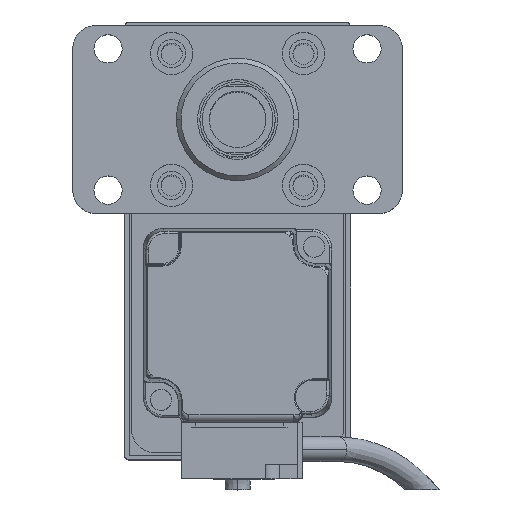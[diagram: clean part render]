
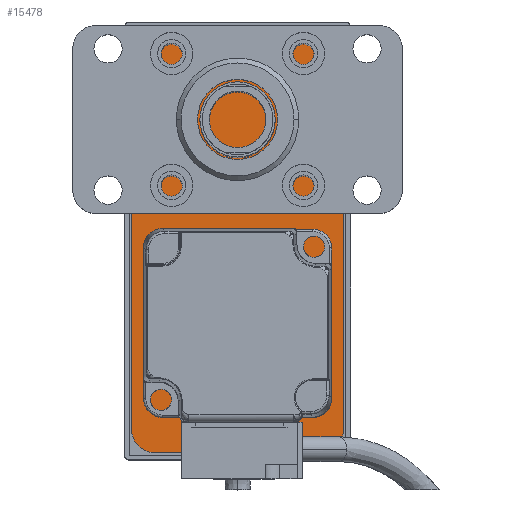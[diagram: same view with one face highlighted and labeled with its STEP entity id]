
A CAD part, top view. The second image highlights one B-rep face of the part: STEP entity #15478.
In plain terms, the highlighted planar face has unit normal (0, 0, 1).
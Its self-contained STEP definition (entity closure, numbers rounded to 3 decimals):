
#264 = EDGE_CURVE ( 'NONE', #1710, #22719, #13748, .T. ) ;
#1078 = ORIENTED_EDGE ( 'NONE', *, *, #14611, .T. ) ;
#1506 = CARTESIAN_POINT ( 'NONE',  ( -22.5, 40., 10. ) ) ;
#1710 = VERTEX_POINT ( 'NONE', #14300 ) ;
#1847 = FACE_OUTER_BOUND ( 'NONE', #9409, .T. ) ;
#2166 = AXIS2_PLACEMENT_3D ( 'NONE', #3795, #13316, #17137 ) ;
#2168 = ORIENTED_EDGE ( 'NONE', *, *, #264, .T. ) ;
#2432 = DIRECTION ( 'NONE',  ( 0., 0., 1. ) ) ;
#2584 = CARTESIAN_POINT ( 'NONE',  ( -22.5, -40., 10. ) ) ;
#3339 = ORIENTED_EDGE ( 'NONE', *, *, #6085, .T. ) ;
#3657 = CARTESIAN_POINT ( 'NONE',  ( -17.5, -40., 10. ) ) ;
#3795 = CARTESIAN_POINT ( 'NONE',  ( 0., 0., 10. ) ) ;
#3907 = CARTESIAN_POINT ( 'NONE',  ( -17.5, 45., 10. ) ) ;
#4324 = DIRECTION ( 'NONE',  ( 1., 0., 0. ) ) ;
#4365 = CARTESIAN_POINT ( 'NONE',  ( 17.5, -40., 10. ) ) ;
#4801 = CARTESIAN_POINT ( 'NONE',  ( 17.5, 40., 10. ) ) ;
#4932 = DIRECTION ( 'NONE',  ( 1., 0., 0. ) ) ;
#5035 = CIRCLE ( 'NONE', #22114, 5. ) ;
#5906 = VERTEX_POINT ( 'NONE', #14974 ) ;
#6085 = EDGE_CURVE ( 'NONE', #22719, #7292, #24620, .T. ) ;
#6502 = VERTEX_POINT ( 'NONE', #2584 ) ;
#6862 = CARTESIAN_POINT ( 'NONE',  ( -17.5, -45., 10. ) ) ;
#7047 = DIRECTION ( 'NONE',  ( 0., 1., 0. ) ) ;
#7292 = VERTEX_POINT ( 'NONE', #11486 ) ;
#7813 = AXIS2_PLACEMENT_3D ( 'NONE', #10455, #16348, #4932 ) ;
#7918 = DIRECTION ( 'NONE',  ( -1., 0., 0. ) ) ;
#8131 = CIRCLE ( 'NONE', #11438, 5. ) ;
#8459 = LINE ( 'NONE', #11721, #9068 ) ;
#8670 = VECTOR ( 'NONE', #7047, 1000. ) ;
#9068 = VECTOR ( 'NONE', #7918, 1000. ) ;
#9327 = ORIENTED_EDGE ( 'NONE', *, *, #20393, .T. ) ;
#9409 = EDGE_LOOP ( 'NONE', ( #2168, #3339, #1078, #11678, #19898, #9327, #21409, #24802 ) ) ;
#10455 = CARTESIAN_POINT ( 'NONE',  ( -17.5, 40., 10. ) ) ;
#10651 = EDGE_CURVE ( 'NONE', #20966, #5906, #12750, .T. ) ;
#11412 = PLANE ( 'NONE',  #2166 ) ;
#11438 = AXIS2_PLACEMENT_3D ( 'NONE', #4365, #2432, #23445 ) ;
#11486 = CARTESIAN_POINT ( 'NONE',  ( 17.5, 45., 10. ) ) ;
#11678 = ORIENTED_EDGE ( 'NONE', *, *, #21448, .T. ) ;
#11721 = CARTESIAN_POINT ( 'NONE',  ( 22.5, 45., 10. ) ) ;
#12151 = VECTOR ( 'NONE', #24049, 1000. ) ;
#12750 = LINE ( 'NONE', #20280, #13282 ) ;
#12909 = VERTEX_POINT ( 'NONE', #1506 ) ;
#13282 = VECTOR ( 'NONE', #20609, 1000. ) ;
#13316 = DIRECTION ( 'NONE',  ( 0., 0., 1. ) ) ;
#13748 = LINE ( 'NONE', #14637, #8670 ) ;
#13901 = VERTEX_POINT ( 'NONE', #3907 ) ;
#14300 = CARTESIAN_POINT ( 'NONE',  ( 22.5, -40., 10. ) ) ;
#14559 = EDGE_CURVE ( 'NONE', #5906, #1710, #8131, .T. ) ;
#14611 = EDGE_CURVE ( 'NONE', #7292, #13901, #8459, .T. ) ;
#14637 = CARTESIAN_POINT ( 'NONE',  ( 22.5, -45., 10. ) ) ;
#14671 = AXIS2_PLACEMENT_3D ( 'NONE', #4801, #21869, #21779 ) ;
#14974 = CARTESIAN_POINT ( 'NONE',  ( 17.5, -45., 10. ) ) ;
#15183 = CARTESIAN_POINT ( 'NONE',  ( 22.5, 40., 10. ) ) ;
#15478 = ADVANCED_FACE ( 'NONE', ( #1847 ), #11412, .T. ) ;
#16348 = DIRECTION ( 'NONE',  ( 0., 0., 1. ) ) ;
#16536 = CARTESIAN_POINT ( 'NONE',  ( -22.5, -45., 10. ) ) ;
#17137 = DIRECTION ( 'NONE',  ( 1., 0., 0. ) ) ;
#18767 = CIRCLE ( 'NONE', #7813, 5. ) ;
#19296 = LINE ( 'NONE', #16536, #12151 ) ;
#19355 = DIRECTION ( 'NONE',  ( 0., 0., 1. ) ) ;
#19898 = ORIENTED_EDGE ( 'NONE', *, *, #23946, .T. ) ;
#20280 = CARTESIAN_POINT ( 'NONE',  ( 22.5, -45., 10. ) ) ;
#20393 = EDGE_CURVE ( 'NONE', #6502, #20966, #5035, .T. ) ;
#20609 = DIRECTION ( 'NONE',  ( 1., 0., 0. ) ) ;
#20966 = VERTEX_POINT ( 'NONE', #6862 ) ;
#21409 = ORIENTED_EDGE ( 'NONE', *, *, #10651, .T. ) ;
#21448 = EDGE_CURVE ( 'NONE', #13901, #12909, #18767, .T. ) ;
#21779 = DIRECTION ( 'NONE',  ( 1., 0., 0. ) ) ;
#21869 = DIRECTION ( 'NONE',  ( 0., 0., 1. ) ) ;
#22114 = AXIS2_PLACEMENT_3D ( 'NONE', #3657, #19355, #4324 ) ;
#22719 = VERTEX_POINT ( 'NONE', #15183 ) ;
#23445 = DIRECTION ( 'NONE',  ( 1., 0., 0. ) ) ;
#23946 = EDGE_CURVE ( 'NONE', #12909, #6502, #19296, .T. ) ;
#24049 = DIRECTION ( 'NONE',  ( 0., -1., 0. ) ) ;
#24620 = CIRCLE ( 'NONE', #14671, 5. ) ;
#24802 = ORIENTED_EDGE ( 'NONE', *, *, #14559, .T. ) ;
